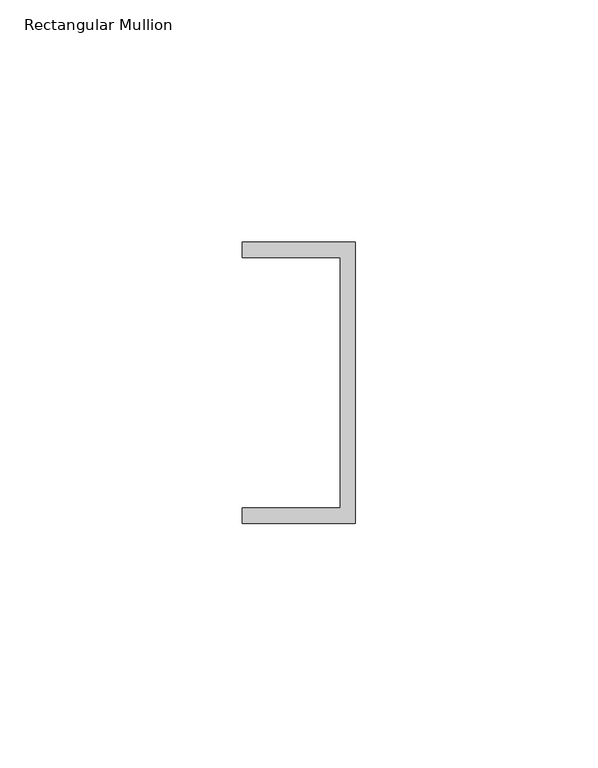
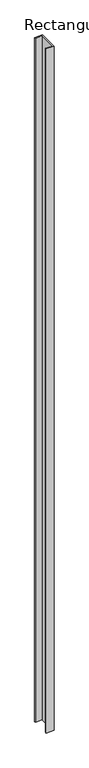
"""IFC4 building model written with IfcOpenShell, lengths in millimetres: member geometry, Rectangular Mullion : Frame-Teknion-Altos-Base_Channel."""

from ifc_helpers import new_model, si_unit, frame, origin, place, context, project, spatial, polyline, outline, extrude, source, transform, mapped, element, save


def rectangular_mullion_044499e4(model_context):
    return source(origin(), model_context, "Body", "SweptSolid", [
        extrude(outline(polyline([(0.0, 29.0214844), (0.0, -29.0214844), (-23.3164063, -29.0214844), (-23.3164063, -25.8464844), (-3.175, -25.8464844), (-3.175, 25.8464844), (-23.3164063, 25.8464844), (-23.3164063, 29.0214844), (0.0, 29.0214844)])), frame((0.0, 0.0, -2105.6203125), z_axis=(0.0, 0.0, 1.0), x_axis=(1.0, 0.0, 0.0)), (0.0, 0.0, 1.0), 2105.6203125),
    ])


if __name__ == "__main__":
    model = new_model("IFC4")
    model_context = context("Model", 3, world=origin())
    ifc_project = project(units=[si_unit("LENGTHUNIT", "METRE", prefix="MILLI")], contexts=[model_context])
    site = spatial("IfcSite", under=ifc_project)
    building = spatial("IfcBuilding", under=site)
    placement = place(None, origin())
    rectangular_mullion_shape = rectangular_mullion_044499e4(model_context)
    element("IfcMember", 1, ObjectType="Rectangular Mullion : Frame-Teknion-Altos-Base_Channel", at=placement, inside=building, context=model_context, shape_type="MappedRepresentation", body=[
        mapped(rectangular_mullion_shape, transform((0.0, 0.0, 0.0), x_axis=(1.0, 0.0, 0.0), y_axis=(0.0, 1.0, 0.0), z_axis=(0.0, 0.0, 1.0))),
    ])
    save(model, "model.ifc")
